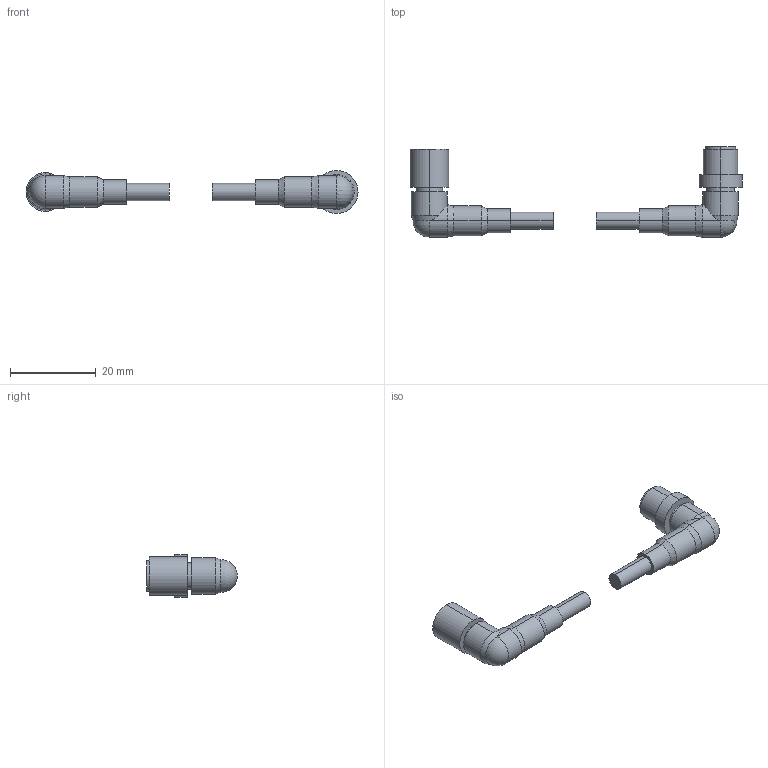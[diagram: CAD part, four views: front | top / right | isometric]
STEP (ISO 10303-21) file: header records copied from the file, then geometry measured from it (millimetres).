
FILE_DESCRIPTION (( 'STEP AP203' ), '1' );
FILE_NAME ('XS3W_M422_402_R.step', '2006-09-19T01:01:09', ( 'OSMC1.0 ' ), ( ' ' ), 'SwSTEP 2.0', 'SolidWorks 2002025', '' );
FILE_SCHEMA (( 'CONFIG_CONTROL_DESIGN' ));
Length unit declared in the file: millimetre
Products named in the file (3): XS3W_M422_402_R; XS3H_M422_402_R; XS3F_M422_402_R
Assembly tree (2 placements, depth 2):
  XS3W_M422_402_R
    XS3F_M422_402_R
    XS3H_M422_402_R
Bounding box: 77.4 x 21.12 x 10 mm (x, y, z)
Volume: 3178.5 mm3; surface area: 2752.9 mm2
Topology: 2 solids, 2 shells, 78 faces, 162 edges, 98 vertices
Faces by surface type: cylinder 39, plane 25, cone 12, sphere 2
Entity records: 2417 total; most frequent: CARTESIAN_POINT 423, DIRECTION 396, ORIENTED_EDGE 316, AXIS2_PLACEMENT_3D 162, EDGE_CURVE 158, VERTEX_POINT 97, EDGE_LOOP 91, CIRCLE 79
